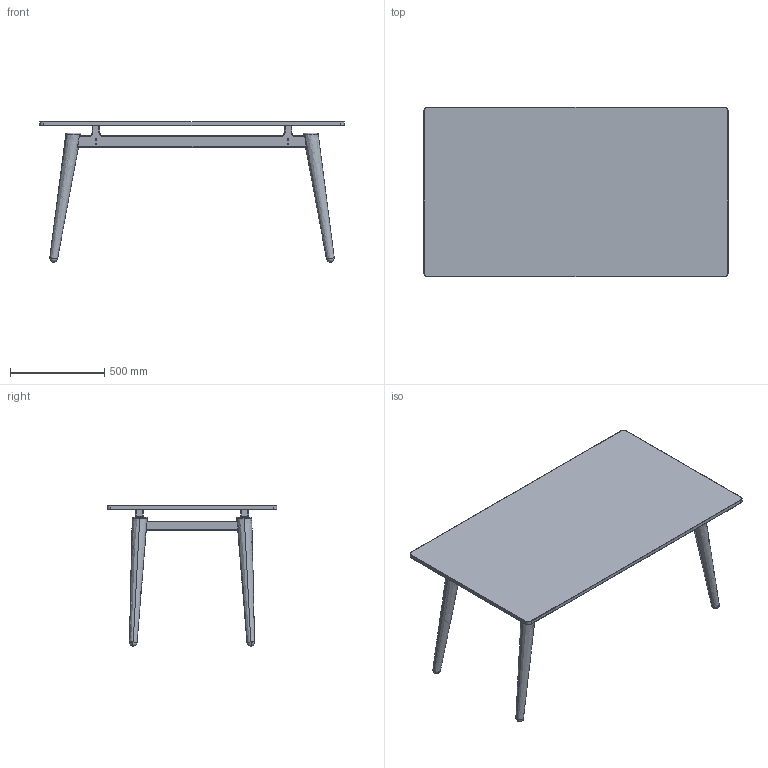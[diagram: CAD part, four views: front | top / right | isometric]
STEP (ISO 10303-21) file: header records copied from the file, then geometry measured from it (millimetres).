
FILE_DESCRIPTION(/* description */ (''),/* implementation_level */ '2;1');
FILE_NAME(/* name */ 'Evolve Mesa - Sobre Cristal',/* time_stamp */ '2019-09-27T12:49:30+02:00',/* author */ (''),/* organization */ (''),/* preprocessor_version */ 'ST-DEVELOPER v16.5',/* originating_system */ '',/* authorisation */ '');
FILE_SCHEMA (('AUTOMOTIVE_DESIGN'));
Length unit declared in the file: millimetre
Products named in the file (1): Document
Bounding box: 1615 x 900 x 745 mm (x, y, z)
Volume: 45339686 mm3; surface area: 4257262.1 mm2
Topology: 17 solids, 17 shells, 306 faces, 688 edges, 424 vertices
Faces by surface type: bspline 232, plane 74
Entity records: 15309 total; most frequent: CARTESIAN_POINT 11256, ORIENTED_EDGE 1360, EDGE_CURVE 680, VERTEX_POINT 424, EDGE_LOOP 338, B_SPLINE_CURVE_WITH_KNOTS 312, ADVANCED_FACE 306, FACE_OUTER_BOUND 306
